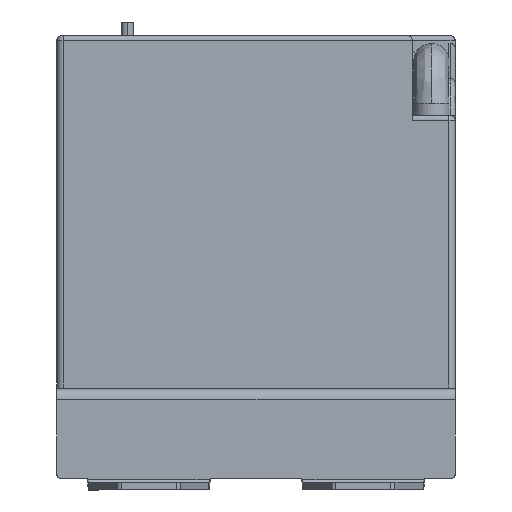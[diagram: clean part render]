
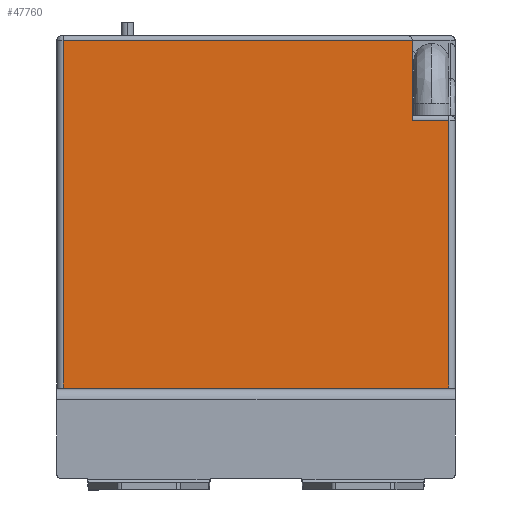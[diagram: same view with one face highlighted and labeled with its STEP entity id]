
A CAD part, front view. The second image highlights one B-rep face of the part: STEP entity #47760.
In plain terms, the highlighted planar face has unit normal (0, -1, 0) as drawn and (1, 0, 0) by its records, which use the part's own axes.
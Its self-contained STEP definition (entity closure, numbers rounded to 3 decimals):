
#629 = CARTESIAN_POINT ( 'NONE',  ( -18.269, -33.647, 71.607 ) ) ;
#1701 = EDGE_CURVE ( 'NONE', #30695, #53671, #16821, .T. ) ;
#2046 = ORIENTED_EDGE ( 'NONE', *, *, #4931, .F. ) ;
#3484 = DIRECTION ( 'NONE',  ( 0., 0., -1. ) ) ;
#4260 = CARTESIAN_POINT ( 'NONE',  ( -18.269, 81.353, 197.607 ) ) ;
#4931 = EDGE_CURVE ( 'NONE', #53671, #46164, #26132, .T. ) ;
#5479 = ORIENTED_EDGE ( 'NONE', *, *, #20418, .F. ) ;
#6116 = VECTOR ( 'NONE', #21008, 1000. ) ;
#6156 = DIRECTION ( 'NONE',  ( 0., 0., -1. ) ) ;
#7840 = LINE ( 'NONE', #4260, #6116 ) ;
#8112 = EDGE_CURVE ( 'NONE', #29609, #30695, #47744, .T. ) ;
#8225 = VERTEX_POINT ( 'NONE', #41430 ) ;
#8580 = DIRECTION ( 'NONE',  ( 0., 0., -1. ) ) ;
#9367 = DIRECTION ( 'NONE',  ( 0., -1., 0. ) ) ;
#10552 = LINE ( 'NONE', #44615, #13822 ) ;
#12101 = CARTESIAN_POINT ( 'NONE',  ( -18.269, 79.853, 83.607 ) ) ;
#13822 = VECTOR ( 'NONE', #6156, 1000. ) ;
#16821 = LINE ( 'NONE', #50328, #35885 ) ;
#17822 = CARTESIAN_POINT ( 'NONE',  ( -18.269, 81.353, 83.607 ) ) ;
#18203 = VECTOR ( 'NONE', #9367, 1000. ) ;
#19128 = FACE_OUTER_BOUND ( 'NONE', #48587, .T. ) ;
#20418 = EDGE_CURVE ( 'NONE', #46528, #8225, #7840, .T. ) ;
#21008 = DIRECTION ( 'NONE',  ( 0., 1., 0. ) ) ;
#22650 = ORIENTED_EDGE ( 'NONE', *, *, #31035, .T. ) ;
#23962 = CARTESIAN_POINT ( 'NONE',  ( -18.269, -33.647, 197.607 ) ) ;
#25992 = EDGE_CURVE ( 'NONE', #8225, #29609, #10552, .T. ) ;
#26132 = LINE ( 'NONE', #51667, #18203 ) ;
#27648 = LINE ( 'NONE', #48786, #49286 ) ;
#27914 = PLANE ( 'NONE',  #40929 ) ;
#29609 = VERTEX_POINT ( 'NONE', #12101 ) ;
#29662 = CARTESIAN_POINT ( 'NONE',  ( -18.269, 53.853, 83.607 ) ) ;
#30695 = VERTEX_POINT ( 'NONE', #29662 ) ;
#31035 = EDGE_CURVE ( 'NONE', #46528, #46164, #27648, .T. ) ;
#34317 = ORIENTED_EDGE ( 'NONE', *, *, #1701, .F. ) ;
#34565 = DIRECTION ( 'NONE',  ( 0., -1., 0. ) ) ;
#35885 = VECTOR ( 'NONE', #8580, 1000. ) ;
#35893 = DIRECTION ( 'NONE',  ( -1., 0., 0. ) ) ;
#40929 = AXIS2_PLACEMENT_3D ( 'NONE', #51830, #35893, #47693 ) ;
#41430 = CARTESIAN_POINT ( 'NONE',  ( -18.269, 79.853, 197.607 ) ) ;
#42030 = ORIENTED_EDGE ( 'NONE', *, *, #8112, .F. ) ;
#44615 = CARTESIAN_POINT ( 'NONE',  ( -18.269, 79.853, 69.607 ) ) ;
#46164 = VERTEX_POINT ( 'NONE', #629 ) ;
#46528 = VERTEX_POINT ( 'NONE', #23962 ) ;
#47515 = ORIENTED_EDGE ( 'NONE', *, *, #25992, .F. ) ;
#47693 = DIRECTION ( 'NONE',  ( 0., 0., 1. ) ) ;
#47744 = LINE ( 'NONE', #17822, #51042 ) ;
#47760 = ADVANCED_FACE ( 'NONE', ( #19128 ), #27914, .F. ) ;
#48587 = EDGE_LOOP ( 'NONE', ( #2046, #34317, #42030, #47515, #5479, #22650 ) ) ;
#48786 = CARTESIAN_POINT ( 'NONE',  ( -18.269, -33.647, 134.607 ) ) ;
#49286 = VECTOR ( 'NONE', #3484, 1000. ) ;
#50202 = CARTESIAN_POINT ( 'NONE',  ( -18.269, 53.853, 71.607 ) ) ;
#50328 = CARTESIAN_POINT ( 'NONE',  ( -18.269, 53.853, 69.607 ) ) ;
#51042 = VECTOR ( 'NONE', #34565, 1000. ) ;
#51667 = CARTESIAN_POINT ( 'NONE',  ( -18.269, 81.353, 71.607 ) ) ;
#51830 = CARTESIAN_POINT ( 'NONE',  ( -18.269, 81.353, 69.607 ) ) ;
#53671 = VERTEX_POINT ( 'NONE', #50202 ) ;
